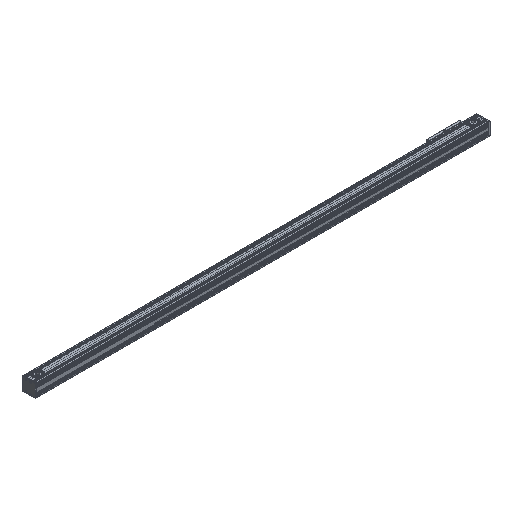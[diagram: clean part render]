
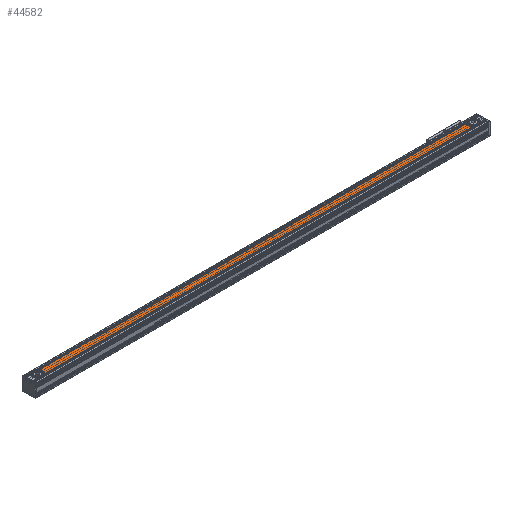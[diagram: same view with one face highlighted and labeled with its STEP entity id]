
A CAD part, isometric view. The second image highlights one B-rep face of the part: STEP entity #44582.
In plain terms, the highlighted planar face has unit normal (0, 0, 1).
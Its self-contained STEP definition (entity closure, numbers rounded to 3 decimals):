
#4392 = EDGE_CURVE ( 'NONE', #111828, #96813, #73641, .T. ) ;
#5502 = CARTESIAN_POINT ( 'NONE',  ( 2531.899, 62.821, 83.366 ) ) ;
#9408 = CARTESIAN_POINT ( 'NONE',  ( 2531.899, 103.421, 83.366 ) ) ;
#10290 = AXIS2_PLACEMENT_3D ( 'NONE', #45636, #125416, #34475 ) ;
#11974 = ORIENTED_EDGE ( 'NONE', *, *, #4392, .F. ) ;
#17006 = VERTEX_POINT ( 'NONE', #71159 ) ;
#17652 = LINE ( 'NONE', #48027, #109877 ) ;
#24000 = LINE ( 'NONE', #85310, #28453 ) ;
#25495 = CARTESIAN_POINT ( 'NONE',  ( 2555.328, 83.121, 83.366 ) ) ;
#26159 = DIRECTION ( 'NONE',  ( 0., 0., 1. ) ) ;
#26825 = DIRECTION ( 'NONE',  ( 1., 0., 0. ) ) ;
#26907 = CARTESIAN_POINT ( 'NONE',  ( -164.672, 119.121, 83.366 ) ) ;
#28453 = VECTOR ( 'NONE', #64308, 1000. ) ;
#34475 = DIRECTION ( 'NONE',  ( -1., 0., 0. ) ) ;
#34931 = EDGE_CURVE ( 'NONE', #111828, #17006, #24000, .T. ) ;
#40918 = VERTEX_POINT ( 'NONE', #88686 ) ;
#41990 = AXIS2_PLACEMENT_3D ( 'NONE', #25495, #26159, #26825 ) ;
#44582 = ADVANCED_FACE ( 'NONE', ( #83623 ), #123882, .T. ) ;
#45636 = CARTESIAN_POINT ( 'NONE',  ( -114.672, 83.121, 83.366 ) ) ;
#48027 = CARTESIAN_POINT ( 'NONE',  ( -164.672, 62.821, 83.366 ) ) ;
#64308 = DIRECTION ( 'NONE',  ( -1., 0., 0. ) ) ;
#66096 = ORIENTED_EDGE ( 'NONE', *, *, #114150, .T. ) ;
#67823 = DIRECTION ( 'NONE',  ( 0., 0., 1. ) ) ;
#71159 = CARTESIAN_POINT ( 'NONE',  ( -91.244, 103.421, 83.366 ) ) ;
#73641 = CIRCLE ( 'NONE', #41990, 31. ) ;
#75786 = DIRECTION ( 'NONE',  ( 1., 0., 0. ) ) ;
#79357 = AXIS2_PLACEMENT_3D ( 'NONE', #26907, #67823, #97448 ) ;
#79726 = CIRCLE ( 'NONE', #10290, 31. ) ;
#80754 = EDGE_CURVE ( 'NONE', #40918, #96813, #17652, .T. ) ;
#82861 = EDGE_LOOP ( 'NONE', ( #129042, #11974, #104288, #66096 ) ) ;
#83623 = FACE_OUTER_BOUND ( 'NONE', #82861, .T. ) ;
#85310 = CARTESIAN_POINT ( 'NONE',  ( -164.672, 103.421, 83.366 ) ) ;
#88686 = CARTESIAN_POINT ( 'NONE',  ( -91.244, 62.821, 83.366 ) ) ;
#96813 = VERTEX_POINT ( 'NONE', #5502 ) ;
#97448 = DIRECTION ( 'NONE',  ( 1., 0., 0. ) ) ;
#104288 = ORIENTED_EDGE ( 'NONE', *, *, #34931, .T. ) ;
#109877 = VECTOR ( 'NONE', #75786, 1000. ) ;
#111828 = VERTEX_POINT ( 'NONE', #9408 ) ;
#114150 = EDGE_CURVE ( 'NONE', #17006, #40918, #79726, .T. ) ;
#123882 = PLANE ( 'NONE',  #79357 ) ;
#125416 = DIRECTION ( 'NONE',  ( 0., 0., -1. ) ) ;
#129042 = ORIENTED_EDGE ( 'NONE', *, *, #80754, .T. ) ;
